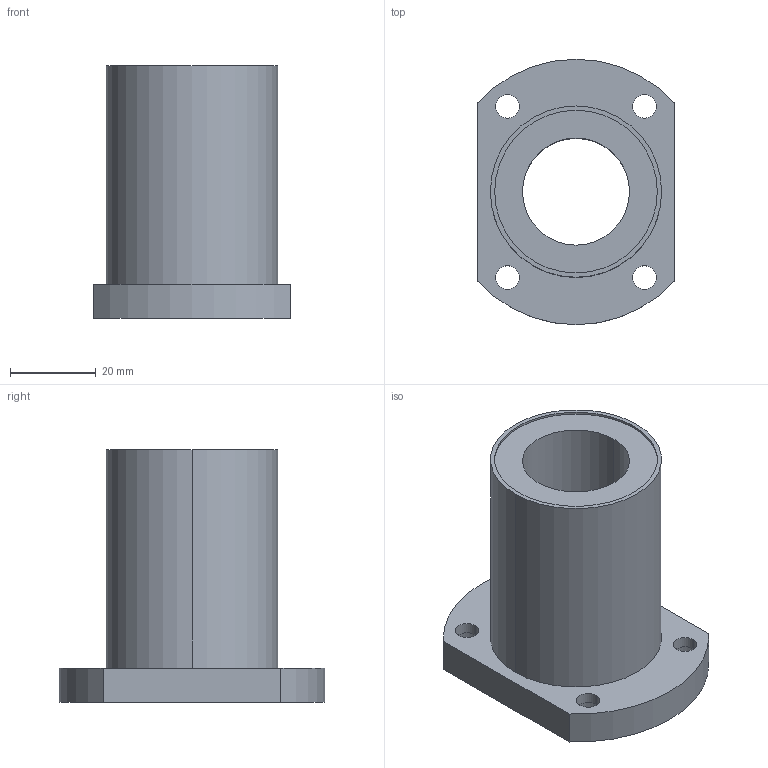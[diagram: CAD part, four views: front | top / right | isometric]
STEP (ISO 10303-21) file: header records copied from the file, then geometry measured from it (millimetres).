
FILE_DESCRIPTION((''),'2;1');
FILE_NAME('C:\Documents and Settings\ｿﾀﾀ蠑ｷ1\ｹﾙﾅﾁ ﾈｭｸ饅\ｺﾎﾇｰﾆﾄﾀﾏ\ﾁｦﾇｰ\LMH__UU\LMH25UU.stp','2005-06-15T10:40:37',('ｿﾀﾀ蠑ｷ1'),(''),'Autodesk Inventor 9','Autodesk Inventor 9','');
FILE_SCHEMA(('AUTOMOTIVE_DESIGN { 1 0 10303 214 1 1 1 1 }'));
Length unit declared in the file: millimetre
Products named in the file (1): LMH__
Bounding box: 46 x 62 x 59 mm (x, y, z)
Volume: 52825 mm3; surface area: 17379.6 mm2
Topology: 1 solids, 1 shells, 40 faces, 90 edges, 60 vertices
Faces by surface type: cylinder 28, plane 12
Entity records: 1193 total; most frequent: DIRECTION 228, CARTESIAN_POINT 191, ORIENTED_EDGE 180, AXIS2_PLACEMENT_3D 97, EDGE_CURVE 90, VERTEX_POINT 60, EDGE_LOOP 58, CIRCLE 56
